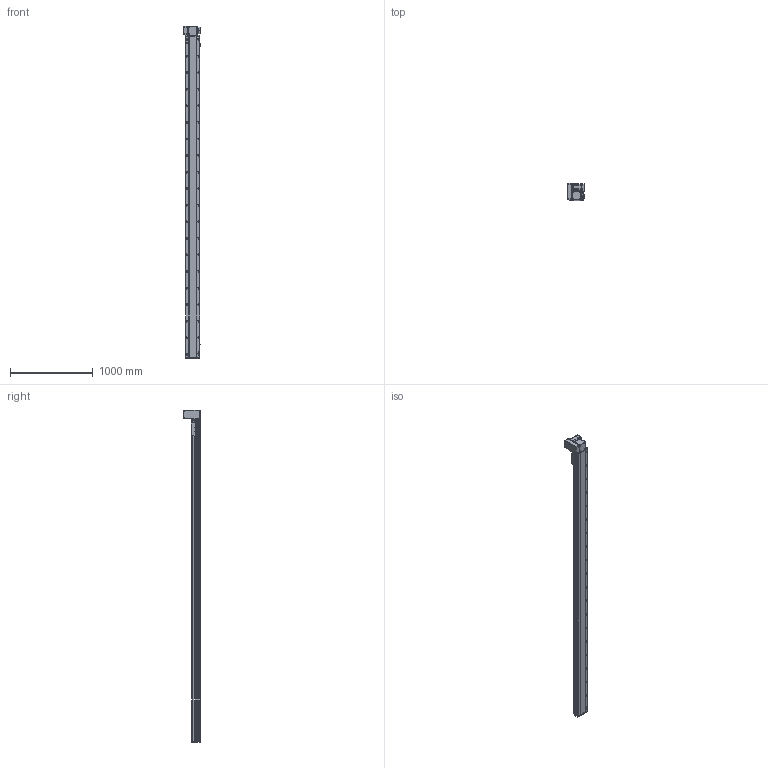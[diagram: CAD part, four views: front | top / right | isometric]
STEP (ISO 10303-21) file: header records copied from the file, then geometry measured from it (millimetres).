
FILE_DESCRIPTION (( 'STEP AP214' ), '1' );
FILE_NAME ('RTB17S-XX-3600-LW-M75-C4.STEP', '2025-12-12T01:23:31', ( '' ), ( '' ), 'SwSTEP 2.0', 'SolidWorks 2018', '' );
FILE_SCHEMA (( 'AUTOMOTIVE_DESIGN' ));
Length unit declared in the file: millimetre
Products named in the file (15): RTB22S-GY-005P^RTB17S-LW-々湍釱蚾饜-750W_RTB17S-XX-XX-LW-M75-C4; RTH13-BL-012覜茼え俋离^RTB17S-賑釱_RTB17S-XX-XX-LW-M75-C4; RTB22S-GY-018P^RTB17S-LW-々湍釱蚾饜-750W_RTB17S-XX-XX-LW-M75-C4; RTB17S-L-007奻裔^RTB17S-XX-XX-LW-M75-C4; RTB17S-L-004-賑釱^RTB17S-賑釱_RTB17S-XX-XX-LW-M75-C4; RTB22S-GY-008-M75--萇儂啣^RTB17S-LW-々湍釱蚾饜-750W_RTB17S-XX-XX-LW-M75-C4; RTB17S-賑釱^RTB17S-XX-XX-LW-M75-C4; RTB17S-XX-3600-LW-M75-C4; RTB22S-GY-017P^RTB17S-LW-々湍釱蚾饜-750W_RTB17S-XX-XX-LW-M75-C4; RTB17S-LW-々湍釱蚾饜-750W^RTB17S-XX-XX-LW-M75-C4; 750W萇儂^RTB17S-XX-XX-LW-M75-C4; EE672^RTB17S-XX-XX-LW-M75-C4; RTB17S-L-001-耜醱啣^RTB17S-XX-XX-LW-M75-C4; RTB17-R-011菁釱^RTB17S-XX-XX-LW-M75-C4; RTB17S-L-014-T20-P75--々湍釱^RTB17S-LW-々湍釱蚾饜-750W_RTB17S-XX-XX-LW-M75-C4
Assembly tree (17 placements, depth 3):
  RTB17S-XX-3600-LW-M75-C4
    RTB17-R-011菁釱^RTB17S-XX-XX-LW-M75-C4
    EE672^RTB17S-XX-XX-LW-M75-C4  x3
    RTB17S-L-001-耜醱啣^RTB17S-XX-XX-LW-M75-C4
    RTB17S-賑釱^RTB17S-XX-XX-LW-M75-C4
      RTB17S-L-004-賑釱^RTB17S-賑釱_RTB17S-XX-XX-LW-M75-C4
      RTH13-BL-012覜茼え俋离^RTB17S-賑釱_RTB17S-XX-XX-LW-M75-C4
    RTB17S-L-007奻裔^RTB17S-XX-XX-LW-M75-C4
    750W萇儂^RTB17S-XX-XX-LW-M75-C4
    RTB17S-LW-々湍釱蚾饜-750W^RTB17S-XX-XX-LW-M75-C4
      RTB17S-L-014-T20-P75--々湍釱^RTB17S-LW-々湍釱蚾饜-750W_RTB17S-XX-XX-LW-M75-C4
      RTB22S-GY-005P^RTB17S-LW-々湍釱蚾饜-750W_RTB17S-XX-XX-LW-M75-C4
      RTB22S-GY-017P^RTB17S-LW-々湍釱蚾饜-750W_RTB17S-XX-XX-LW-M75-C4  x2
      RTB22S-GY-008-M75--萇儂啣^RTB17S-LW-々湍釱蚾饜-750W_RTB17S-XX-XX-LW-M75-C4
      RTB22S-GY-018P^RTB17S-LW-々湍釱蚾饜-750W_RTB17S-XX-XX-LW-M75-C4
Bounding box: 210.4 x 201.5 x 4007.5 mm (x, y, z)
Volume: 28456773.2 mm3; surface area: 5263675.7 mm2
Topology: 17 solids, 17 shells, 2297 faces, 6484 edges, 4202 vertices
Faces by surface type: plane 996, cylinder 885, bspline 294, cone 110, sphere 8, torus 4
Entity records: 68086 total; most frequent: CARTESIAN_POINT 20348, ORIENTED_EDGE 9812, DIRECTION 9032, EDGE_CURVE 4906, AXIS2_PLACEMENT_3D 3222, VERTEX_POINT 3206, VECTOR 2588, LINE 2588
